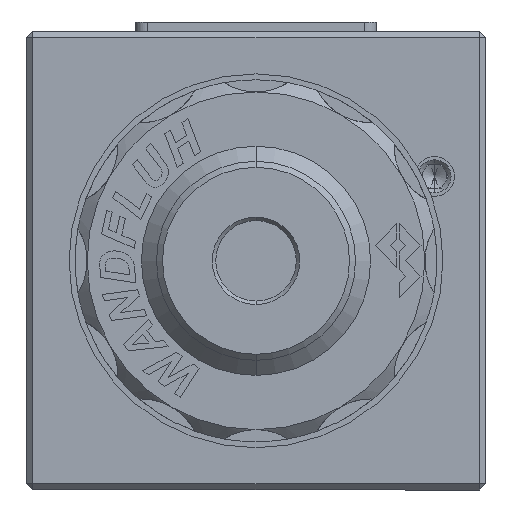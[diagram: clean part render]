
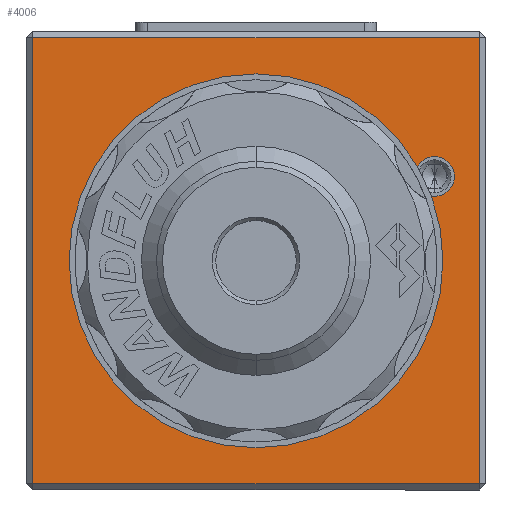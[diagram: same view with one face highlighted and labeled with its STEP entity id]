
A CAD part, left-side view. The second image highlights one B-rep face of the part: STEP entity #4006.
In plain terms, the highlighted planar face has unit normal (-1, 0, 0).
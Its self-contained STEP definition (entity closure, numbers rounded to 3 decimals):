
#228 = LINE ( 'NONE', #22925, #13960 ) ;
#314 = EDGE_CURVE ( 'NONE', #13995, #16166, #228, .T. ) ;
#477 = ORIENTED_EDGE ( 'NONE', *, *, #1025, .F. ) ;
#831 = FACE_BOUND ( 'NONE', #29823, .T. ) ;
#1025 = EDGE_CURVE ( 'NONE', #29436, #14302, #26450, .T. ) ;
#1059 = VERTEX_POINT ( 'NONE', #1619 ) ;
#1592 = AXIS2_PLACEMENT_3D ( 'NONE', #11106, #1756, #6512 ) ;
#1619 = CARTESIAN_POINT ( 'NONE',  ( 0., 0., -9.5 ) ) ;
#1756 = DIRECTION ( 'NONE',  ( -1., 0., 0. ) ) ;
#2172 = EDGE_CURVE ( 'NONE', #14302, #29436, #7840, .T. ) ;
#2504 = EDGE_CURVE ( 'NONE', #16166, #28717, #11778, .T. ) ;
#2613 = AXIS2_PLACEMENT_3D ( 'NONE', #20000, #8286, #3716 ) ;
#3100 = CARTESIAN_POINT ( 'NONE',  ( 0., -18.5, 18.5 ) ) ;
#3389 = CARTESIAN_POINT ( 'NONE',  ( 0., -18.5, 19. ) ) ;
#3716 = DIRECTION ( 'NONE',  ( 0., 0., -1. ) ) ;
#3946 = AXIS2_PLACEMENT_3D ( 'NONE', #20471, #15756, #29910 ) ;
#4006 = ADVANCED_FACE ( 'NONE', ( #831, #29116, #17430 ), #24556, .F. ) ;
#4808 = EDGE_LOOP ( 'NONE', ( #7276, #12235, #18397, #25374 ) ) ;
#4972 = DIRECTION ( 'NONE',  ( 0., 1., 0. ) ) ;
#5332 = DIRECTION ( 'NONE',  ( 0., 0., -1. ) ) ;
#5821 = CARTESIAN_POINT ( 'NONE',  ( 0., -14.8, 5.35 ) ) ;
#6304 = VECTOR ( 'NONE', #20113, 1000. ) ;
#6512 = DIRECTION ( 'NONE',  ( 0., 0., -1. ) ) ;
#6971 = CIRCLE ( 'NONE', #1592, 9.5 ) ;
#7075 = VERTEX_POINT ( 'NONE', #27573 ) ;
#7084 = CARTESIAN_POINT ( 'NONE',  ( 0., 0., 0. ) ) ;
#7276 = ORIENTED_EDGE ( 'NONE', *, *, #2504, .T. ) ;
#7500 = EDGE_CURVE ( 'NONE', #27077, #13995, #29387, .T. ) ;
#7840 = CIRCLE ( 'NONE', #3946, 1.65 ) ;
#7922 = CARTESIAN_POINT ( 'NONE',  ( 0., -14.8, 8.65 ) ) ;
#8286 = DIRECTION ( 'NONE',  ( 1., 0., 0. ) ) ;
#8333 = VECTOR ( 'NONE', #5332, 1000. ) ;
#11106 = CARTESIAN_POINT ( 'NONE',  ( 0., 0., 0. ) ) ;
#11778 = LINE ( 'NONE', #21290, #8333 ) ;
#12235 = ORIENTED_EDGE ( 'NONE', *, *, #23472, .T. ) ;
#12257 = CARTESIAN_POINT ( 'NONE',  ( 0., -18.5, -18.5 ) ) ;
#12705 = CARTESIAN_POINT ( 'NONE',  ( 0., -19., -18.5 ) ) ;
#12746 = ORIENTED_EDGE ( 'NONE', *, *, #2172, .F. ) ;
#13960 = VECTOR ( 'NONE', #4972, 1000. ) ;
#13995 = VERTEX_POINT ( 'NONE', #3100 ) ;
#14302 = VERTEX_POINT ( 'NONE', #7922 ) ;
#14743 = CARTESIAN_POINT ( 'NONE',  ( 0., -14.8, 7. ) ) ;
#14877 = EDGE_CURVE ( 'NONE', #7075, #1059, #6971, .T. ) ;
#15258 = LINE ( 'NONE', #12705, #27743 ) ;
#15756 = DIRECTION ( 'NONE',  ( -1., 0., 0. ) ) ;
#16166 = VERTEX_POINT ( 'NONE', #28938 ) ;
#17245 = ORIENTED_EDGE ( 'NONE', *, *, #14877, .F. ) ;
#17298 = AXIS2_PLACEMENT_3D ( 'NONE', #7084, #20764, #30073 ) ;
#17430 = FACE_BOUND ( 'NONE', #21905, .T. ) ;
#17683 = DIRECTION ( 'NONE',  ( 0., -1., 0. ) ) ;
#18397 = ORIENTED_EDGE ( 'NONE', *, *, #7500, .T. ) ;
#20000 = CARTESIAN_POINT ( 'NONE',  ( 0., -19., 19. ) ) ;
#20113 = DIRECTION ( 'NONE',  ( 0., 0., 1. ) ) ;
#20471 = CARTESIAN_POINT ( 'NONE',  ( 0., -14.8, 7. ) ) ;
#20764 = DIRECTION ( 'NONE',  ( -1., 0., 0. ) ) ;
#21290 = CARTESIAN_POINT ( 'NONE',  ( 0., 18.5, 19. ) ) ;
#21905 = EDGE_LOOP ( 'NONE', ( #12746, #477 ) ) ;
#22038 = DIRECTION ( 'NONE',  ( -1., 0., 0. ) ) ;
#22062 = CARTESIAN_POINT ( 'NONE',  ( 0., 18.5, -18.5 ) ) ;
#22925 = CARTESIAN_POINT ( 'NONE',  ( 0., -19., 18.5 ) ) ;
#23472 = EDGE_CURVE ( 'NONE', #28717, #27077, #15258, .T. ) ;
#24014 = DIRECTION ( 'NONE',  ( 0., 0., 1. ) ) ;
#24416 = ORIENTED_EDGE ( 'NONE', *, *, #26653, .F. ) ;
#24556 = PLANE ( 'NONE',  #2613 ) ;
#25374 = ORIENTED_EDGE ( 'NONE', *, *, #314, .T. ) ;
#26003 = AXIS2_PLACEMENT_3D ( 'NONE', #14743, #22038, #24014 ) ;
#26450 = CIRCLE ( 'NONE', #26003, 1.65 ) ;
#26653 = EDGE_CURVE ( 'NONE', #1059, #7075, #27913, .T. ) ;
#27077 = VERTEX_POINT ( 'NONE', #12257 ) ;
#27573 = CARTESIAN_POINT ( 'NONE',  ( 0., 0., 9.5 ) ) ;
#27743 = VECTOR ( 'NONE', #17683, 1000. ) ;
#27913 = CIRCLE ( 'NONE', #17298, 9.5 ) ;
#28717 = VERTEX_POINT ( 'NONE', #22062 ) ;
#28938 = CARTESIAN_POINT ( 'NONE',  ( 0., 18.5, 18.5 ) ) ;
#29116 = FACE_OUTER_BOUND ( 'NONE', #4808, .T. ) ;
#29387 = LINE ( 'NONE', #3389, #6304 ) ;
#29436 = VERTEX_POINT ( 'NONE', #5821 ) ;
#29823 = EDGE_LOOP ( 'NONE', ( #17245, #24416 ) ) ;
#29910 = DIRECTION ( 'NONE',  ( 0., 0., 1. ) ) ;
#30073 = DIRECTION ( 'NONE',  ( 0., 0., -1. ) ) ;
